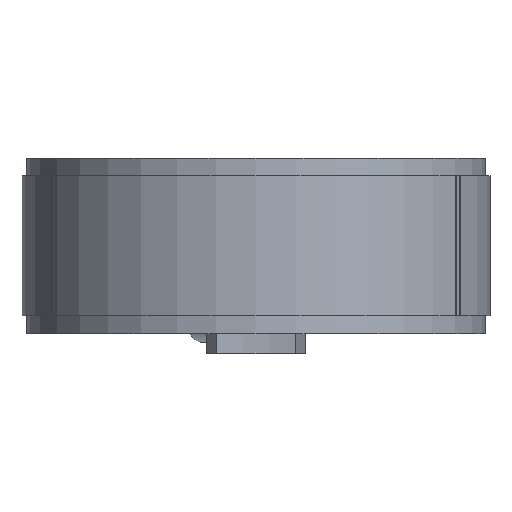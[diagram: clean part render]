
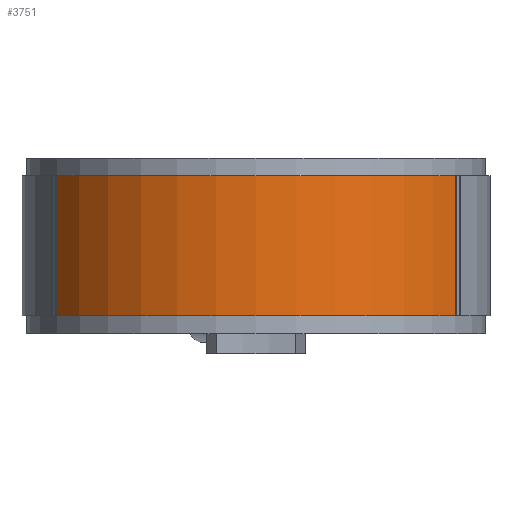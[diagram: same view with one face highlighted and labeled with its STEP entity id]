
A CAD part, front view. The second image highlights one B-rep face of the part: STEP entity #3751.
In plain terms, the highlighted cylindrical face has radius 80 mm (diameter 160 mm), a partial arc.
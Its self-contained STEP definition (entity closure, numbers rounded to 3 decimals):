
#84 = EDGE_LOOP ( 'NONE', ( #2182, #1635, #2561, #444 ) ) ;
#86 = FACE_OUTER_BOUND ( 'NONE', #84, .T. ) ;
#310 = CIRCLE ( 'NONE', #2383, 80. ) ;
#391 = CARTESIAN_POINT ( 'NONE',  ( 53.093, 32.467, 144.125 ) ) ;
#444 = ORIENTED_EDGE ( 'NONE', *, *, #2850, .F. ) ;
#456 = VERTEX_POINT ( 'NONE', #391 ) ;
#687 = EDGE_CURVE ( 'NONE', #2453, #1760, #310, .T. ) ;
#744 = CARTESIAN_POINT ( 'NONE',  ( -83.921, 32.467, -135.865 ) ) ;
#799 = CARTESIAN_POINT ( 'NONE',  ( 53.093, 32.467, -135.865 ) ) ;
#974 = AXIS2_PLACEMENT_3D ( 'NONE', #3501, #1487, #3272 ) ;
#1113 = DIRECTION ( 'NONE',  ( 0., 0., 1. ) ) ;
#1188 = VERTEX_POINT ( 'NONE', #3599 ) ;
#1209 = AXIS2_PLACEMENT_3D ( 'NONE', #2021, #1113, #3475 ) ;
#1487 = DIRECTION ( 'NONE',  ( 0., 0., -1. ) ) ;
#1605 = DIRECTION ( 'NONE',  ( 0., 0., 1. ) ) ;
#1635 = ORIENTED_EDGE ( 'NONE', *, *, #687, .T. ) ;
#1749 = DIRECTION ( 'NONE',  ( 0., 0., 1. ) ) ;
#1758 = CARTESIAN_POINT ( 'NONE',  ( -83.921, 32.467, 96.125 ) ) ;
#1760 = VERTEX_POINT ( 'NONE', #2386 ) ;
#1831 = VECTOR ( 'NONE', #1605, 1000. ) ;
#1900 = LINE ( 'NONE', #744, #1831 ) ;
#2012 = CIRCLE ( 'NONE', #1209, 80. ) ;
#2020 = CARTESIAN_POINT ( 'NONE',  ( -15.414, 73.78, 96.125 ) ) ;
#2021 = CARTESIAN_POINT ( 'NONE',  ( -15.414, 73.78, 144.125 ) ) ;
#2182 = ORIENTED_EDGE ( 'NONE', *, *, #3508, .F. ) ;
#2254 = LINE ( 'NONE', #799, #2739 ) ;
#2383 = AXIS2_PLACEMENT_3D ( 'NONE', #2020, #1749, #3474 ) ;
#2386 = CARTESIAN_POINT ( 'NONE',  ( 53.093, 32.467, 96.125 ) ) ;
#2453 = VERTEX_POINT ( 'NONE', #1758 ) ;
#2561 = ORIENTED_EDGE ( 'NONE', *, *, #3676, .T. ) ;
#2739 = VECTOR ( 'NONE', #3486, 1000. ) ;
#2850 = EDGE_CURVE ( 'NONE', #1188, #456, #2012, .T. ) ;
#2917 = CYLINDRICAL_SURFACE ( 'NONE', #974, 80. ) ;
#3272 = DIRECTION ( 'NONE',  ( -1., 0., 0. ) ) ;
#3474 = DIRECTION ( 'NONE',  ( 1., 0., 0. ) ) ;
#3475 = DIRECTION ( 'NONE',  ( 1., 0., 0. ) ) ;
#3486 = DIRECTION ( 'NONE',  ( 0., 0., 1. ) ) ;
#3501 = CARTESIAN_POINT ( 'NONE',  ( -15.414, 73.78, 64.125 ) ) ;
#3508 = EDGE_CURVE ( 'NONE', #2453, #1188, #1900, .T. ) ;
#3599 = CARTESIAN_POINT ( 'NONE',  ( -83.921, 32.467, 144.125 ) ) ;
#3676 = EDGE_CURVE ( 'NONE', #1760, #456, #2254, .T. ) ;
#3751 = ADVANCED_FACE ( 'NONE', ( #86 ), #2917, .T. ) ;
